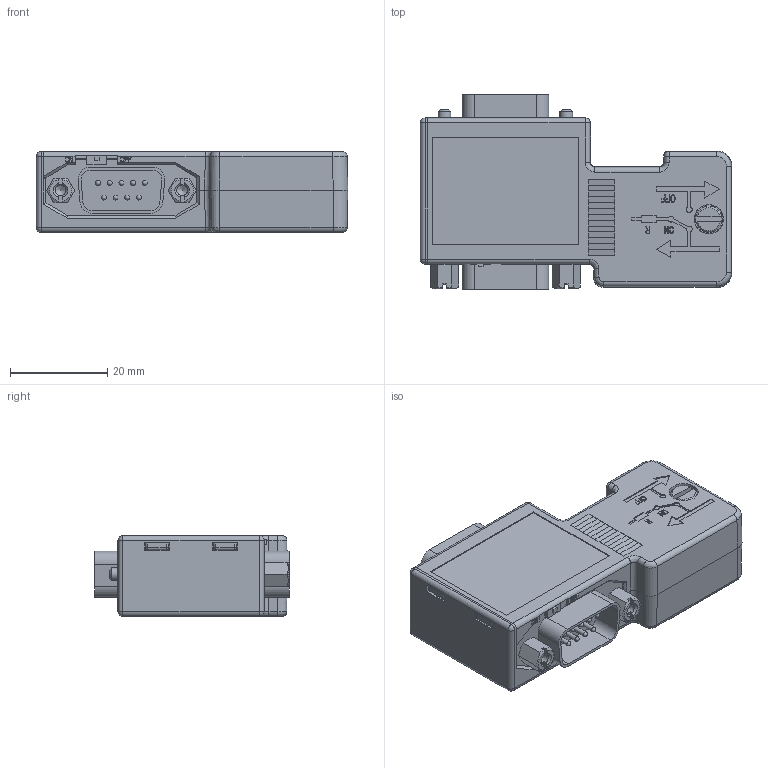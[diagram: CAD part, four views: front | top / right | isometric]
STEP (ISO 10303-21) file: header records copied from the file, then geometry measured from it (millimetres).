
FILE_DESCRIPTION(('FreeCAD Model'),'2;1');
FILE_NAME('I:/Fertigng/CAN BUS Stecker/90° neu/PRODINFO/Step Daten/CAN Stecker 90° mit PG.step','2018-04-18T11:47:41',('Author'),(''), 'Open CASCADE STEP processor 7.0','FreeCAD','Unknown');
FILE_SCHEMA(('AUTOMOTIVE_DESIGN { 1 0 10303 214 1 1 1 1 }'));
Length unit declared in the file: millimetre
Products named in the file (2): ASSEMBLY
Assembly tree (1 placements, depth 2):
  ASSEMBLY
    ASSEMBLY
Bounding box: 64 x 40 x 16.6 mm (x, y, z)
Volume: 12401.4 mm3; surface area: 19144.6 mm2
Topology: 10 solids, 10 shells, 1611 faces, 4302 edges, 2735 vertices
Faces by surface type: plane 1211, cylinder 243, cone 75, sphere 56, bspline 15, torus 11
Full cylindrical faces by diameter (mm): 1 x18, 1.3 x4, 1.7 x1, 2.2 x2, 2.3 x1, 2.4 x4, 2.55 x1, 2.6 x2, 2.8 x4, 2.802 x4, 3 x3, 3.2 x1, 4 x1, 4.3 x3, 5.4 x1, 5.5 x1
Entity records: 130704 total; most frequent: CARTESIAN_POINT 35232, DIRECTION 15390, LINE 10633, VECTOR 10633, ORIENTED_EDGE 8438, PCURVE 8438, DEFINITIONAL_REPRESENTATION 8438, EDGE_CURVE 4219
